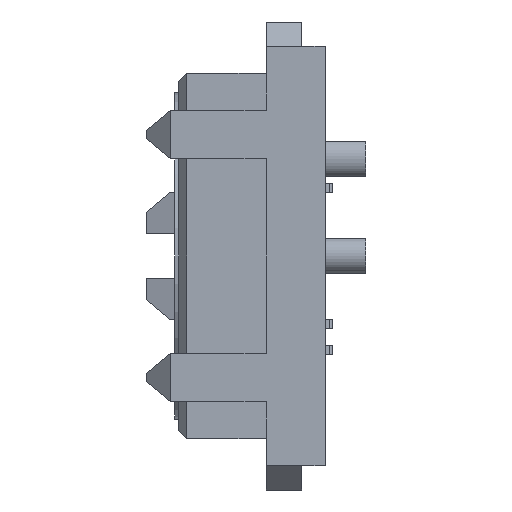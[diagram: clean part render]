
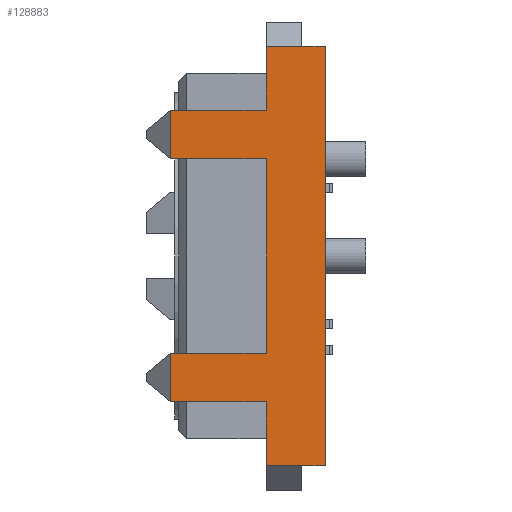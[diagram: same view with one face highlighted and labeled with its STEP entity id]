
A CAD part, left-side view. The second image highlights one B-rep face of the part: STEP entity #128883.
In plain terms, the highlighted planar face has unit normal (-1, 0, 0).
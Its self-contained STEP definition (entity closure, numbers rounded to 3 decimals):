
#523 = CARTESIAN_POINT ( 'NONE',  ( -27.889, 2.997, 4.572 ) ) ;
#3286 = VERTEX_POINT ( 'NONE', #43012 ) ;
#7100 = ORIENTED_EDGE ( 'NONE', *, *, #80779, .T. ) ;
#7146 = CARTESIAN_POINT ( 'NONE',  ( -27.889, 3.759, -3.048 ) ) ;
#8260 = CARTESIAN_POINT ( 'NONE',  ( -27.889, 0., 6.579 ) ) ;
#9930 = CARTESIAN_POINT ( 'NONE',  ( -27.889, -1.854, 6.579 ) ) ;
#13312 = EDGE_CURVE ( 'NONE', #97651, #76683, #103790, .T. ) ;
#15659 = VECTOR ( 'NONE', #51091, 1000. ) ;
#17677 = EDGE_CURVE ( 'NONE', #51240, #96213, #44015, .T. ) ;
#18522 = EDGE_CURVE ( 'NONE', #137669, #116171, #43755, .T. ) ;
#19671 = DIRECTION ( 'NONE',  ( 0., -1., 0. ) ) ;
#20965 = ORIENTED_EDGE ( 'NONE', *, *, #60864, .F. ) ;
#21802 = LINE ( 'NONE', #110141, #134752 ) ;
#22784 = LINE ( 'NONE', #143956, #139250 ) ;
#27284 = DIRECTION ( 'NONE',  ( 0., 0., -1. ) ) ;
#28948 = ORIENTED_EDGE ( 'NONE', *, *, #43840, .T. ) ;
#29852 = ORIENTED_EDGE ( 'NONE', *, *, #36534, .F. ) ;
#33147 = LINE ( 'NONE', #59554, #135504 ) ;
#33754 = VECTOR ( 'NONE', #19671, 1000. ) ;
#34462 = VERTEX_POINT ( 'NONE', #51436 ) ;
#35368 = VERTEX_POINT ( 'NONE', #106999 ) ;
#36534 = EDGE_CURVE ( 'NONE', #60549, #74990, #76020, .T. ) ;
#36762 = CARTESIAN_POINT ( 'NONE',  ( -27.889, -1.118, 7.341 ) ) ;
#36921 = DIRECTION ( 'NONE',  ( 0., 1., 0. ) ) ;
#38812 = DIRECTION ( 'NONE',  ( 0., 1., 0. ) ) ;
#39559 = AXIS2_PLACEMENT_3D ( 'NONE', #36762, #113685, #80615 ) ;
#43012 = CARTESIAN_POINT ( 'NONE',  ( -27.889, 0., -4.572 ) ) ;
#43293 = LINE ( 'NONE', #124107, #85489 ) ;
#43755 = LINE ( 'NONE', #122374, #112579 ) ;
#43840 = EDGE_CURVE ( 'NONE', #35368, #102185, #130415, .T. ) ;
#44015 = LINE ( 'NONE', #7146, #15659 ) ;
#45032 = VERTEX_POINT ( 'NONE', #8260 ) ;
#47423 = CARTESIAN_POINT ( 'NONE',  ( -27.889, 0., 7.341 ) ) ;
#47476 = EDGE_LOOP ( 'NONE', ( #29852, #125711, #56773, #74067, #137080, #77721, #7100, #131031, #28948, #20965, #130317, #132930, #85802, #145415 ) ) ;
#51091 = DIRECTION ( 'NONE',  ( 0., -1., 0. ) ) ;
#51157 = EDGE_CURVE ( 'NONE', #51240, #34462, #22784, .T. ) ;
#51240 = VERTEX_POINT ( 'NONE', #142510 ) ;
#51436 = CARTESIAN_POINT ( 'NONE',  ( -27.889, 2.997, -4.572 ) ) ;
#54581 = LINE ( 'NONE', #47423, #141017 ) ;
#56773 = ORIENTED_EDGE ( 'NONE', *, *, #18522, .T. ) ;
#57729 = DIRECTION ( 'NONE',  ( 0., 0., -1. ) ) ;
#58720 = VERTEX_POINT ( 'NONE', #123605 ) ;
#59554 = CARTESIAN_POINT ( 'NONE',  ( -27.889, -1.854, -6.579 ) ) ;
#60549 = VERTEX_POINT ( 'NONE', #523 ) ;
#60864 = EDGE_CURVE ( 'NONE', #76683, #102185, #33147, .T. ) ;
#61260 = CARTESIAN_POINT ( 'NONE',  ( -27.889, 0., 7.341 ) ) ;
#64987 = VECTOR ( 'NONE', #96956, 1000. ) ;
#67878 = CARTESIAN_POINT ( 'NONE',  ( -27.889, 0., 4.572 ) ) ;
#68419 = CARTESIAN_POINT ( 'NONE',  ( -27.889, 3.759, 4.572 ) ) ;
#68738 = PLANE ( 'NONE',  #39559 ) ;
#71497 = FACE_OUTER_BOUND ( 'NONE', #47476, .T. ) ;
#72145 = CARTESIAN_POINT ( 'NONE',  ( -27.889, 0., -3.048 ) ) ;
#74067 = ORIENTED_EDGE ( 'NONE', *, *, #104373, .T. ) ;
#74990 = VERTEX_POINT ( 'NONE', #67878 ) ;
#76020 = LINE ( 'NONE', #68419, #33754 ) ;
#76683 = VERTEX_POINT ( 'NONE', #143399 ) ;
#77721 = ORIENTED_EDGE ( 'NONE', *, *, #51157, .T. ) ;
#80615 = DIRECTION ( 'NONE',  ( 0., 0., -1. ) ) ;
#80779 = EDGE_CURVE ( 'NONE', #34462, #3286, #122736, .T. ) ;
#85489 = VECTOR ( 'NONE', #135449, 1000. ) ;
#85802 = ORIENTED_EDGE ( 'NONE', *, *, #124976, .T. ) ;
#87404 = VECTOR ( 'NONE', #27284, 1000. ) ;
#87921 = DIRECTION ( 'NONE',  ( 0., 0., -1. ) ) ;
#90920 = CARTESIAN_POINT ( 'NONE',  ( -27.889, 2.997, 3.048 ) ) ;
#96213 = VERTEX_POINT ( 'NONE', #72145 ) ;
#96956 = DIRECTION ( 'NONE',  ( 0., 0., -1. ) ) ;
#97080 = DIRECTION ( 'NONE',  ( 0., 0., -1. ) ) ;
#97278 = DIRECTION ( 'NONE',  ( 0., -1., 0. ) ) ;
#97651 = VERTEX_POINT ( 'NONE', #9930 ) ;
#98421 = CARTESIAN_POINT ( 'NONE',  ( -27.889, -1.854, 6.579 ) ) ;
#100392 = EDGE_CURVE ( 'NONE', #3286, #35368, #112174, .T. ) ;
#102185 = VERTEX_POINT ( 'NONE', #119957 ) ;
#103790 = LINE ( 'NONE', #98421, #64987 ) ;
#104373 = EDGE_CURVE ( 'NONE', #116171, #96213, #54581, .T. ) ;
#106999 = CARTESIAN_POINT ( 'NONE',  ( -27.889, 0., -6.579 ) ) ;
#107423 = VECTOR ( 'NONE', #97278, 1000. ) ;
#109935 = CARTESIAN_POINT ( 'NONE',  ( -27.889, 3.759, -4.572 ) ) ;
#110141 = CARTESIAN_POINT ( 'NONE',  ( -27.889, 0., 7.341 ) ) ;
#112036 = VECTOR ( 'NONE', #130250, 1000. ) ;
#112112 = VECTOR ( 'NONE', #36921, 1000. ) ;
#112174 = LINE ( 'NONE', #61260, #87404 ) ;
#112579 = VECTOR ( 'NONE', #122877, 1000. ) ;
#113685 = DIRECTION ( 'NONE',  ( 1., 0., 0. ) ) ;
#115553 = EDGE_CURVE ( 'NONE', #97651, #58720, #126348, .T. ) ;
#116171 = VERTEX_POINT ( 'NONE', #129265 ) ;
#119957 = CARTESIAN_POINT ( 'NONE',  ( -27.889, -1.118, -6.579 ) ) ;
#122374 = CARTESIAN_POINT ( 'NONE',  ( -27.889, 3.759, 3.048 ) ) ;
#122736 = LINE ( 'NONE', #109935, #112036 ) ;
#122877 = DIRECTION ( 'NONE',  ( 0., -1., 0. ) ) ;
#123605 = CARTESIAN_POINT ( 'NONE',  ( -27.889, -1.118, 6.579 ) ) ;
#123698 = LINE ( 'NONE', #140734, #134324 ) ;
#124107 = CARTESIAN_POINT ( 'NONE',  ( -27.889, 2.997, 3.048 ) ) ;
#124976 = EDGE_CURVE ( 'NONE', #58720, #45032, #123698, .T. ) ;
#125711 = ORIENTED_EDGE ( 'NONE', *, *, #128757, .T. ) ;
#126211 = CARTESIAN_POINT ( 'NONE',  ( -27.889, -1.854, 6.579 ) ) ;
#126348 = LINE ( 'NONE', #126211, #112112 ) ;
#127458 = DIRECTION ( 'NONE',  ( 0., 1., 0. ) ) ;
#128757 = EDGE_CURVE ( 'NONE', #60549, #137669, #43293, .T. ) ;
#128883 = ADVANCED_FACE ( 'NONE', ( #71497 ), #68738, .F. ) ;
#129265 = CARTESIAN_POINT ( 'NONE',  ( -27.889, 0., 3.048 ) ) ;
#130250 = DIRECTION ( 'NONE',  ( 0., -1., 0. ) ) ;
#130253 = EDGE_CURVE ( 'NONE', #45032, #74990, #21802, .T. ) ;
#130317 = ORIENTED_EDGE ( 'NONE', *, *, #13312, .F. ) ;
#130415 = LINE ( 'NONE', #130423, #107423 ) ;
#130423 = CARTESIAN_POINT ( 'NONE',  ( -27.889, -1.118, -6.579 ) ) ;
#131031 = ORIENTED_EDGE ( 'NONE', *, *, #100392, .T. ) ;
#132930 = ORIENTED_EDGE ( 'NONE', *, *, #115553, .T. ) ;
#134324 = VECTOR ( 'NONE', #127458, 1000. ) ;
#134752 = VECTOR ( 'NONE', #87921, 1000. ) ;
#135449 = DIRECTION ( 'NONE',  ( 0., 0., -1. ) ) ;
#135504 = VECTOR ( 'NONE', #38812, 1000. ) ;
#137080 = ORIENTED_EDGE ( 'NONE', *, *, #17677, .F. ) ;
#137669 = VERTEX_POINT ( 'NONE', #90920 ) ;
#139250 = VECTOR ( 'NONE', #97080, 1000. ) ;
#140734 = CARTESIAN_POINT ( 'NONE',  ( -27.889, -1.118, 6.579 ) ) ;
#141017 = VECTOR ( 'NONE', #57729, 1000. ) ;
#142510 = CARTESIAN_POINT ( 'NONE',  ( -27.889, 2.997, -3.048 ) ) ;
#143399 = CARTESIAN_POINT ( 'NONE',  ( -27.889, -1.854, -6.579 ) ) ;
#143956 = CARTESIAN_POINT ( 'NONE',  ( -27.889, 2.997, -4.572 ) ) ;
#145415 = ORIENTED_EDGE ( 'NONE', *, *, #130253, .T. ) ;
